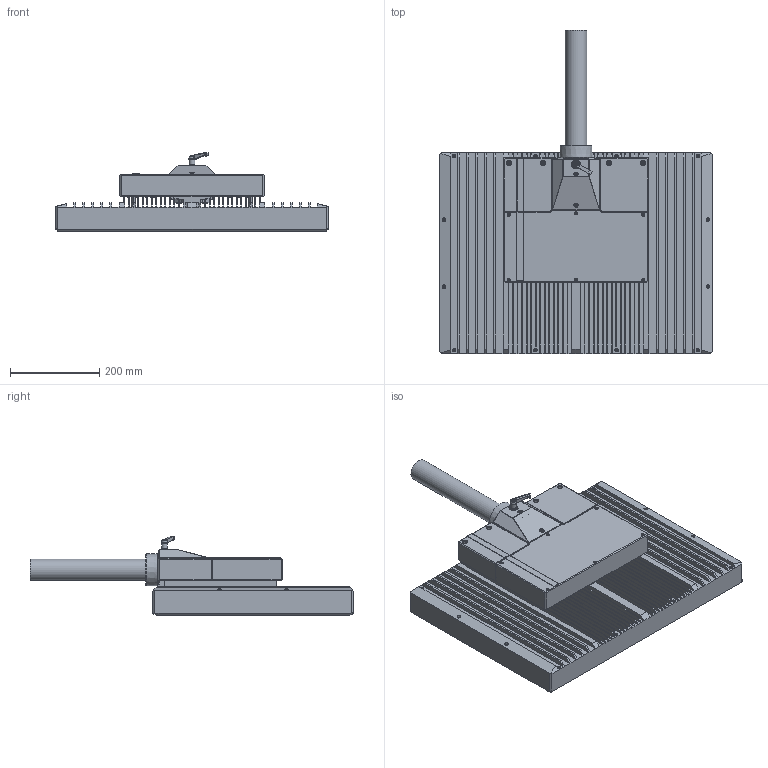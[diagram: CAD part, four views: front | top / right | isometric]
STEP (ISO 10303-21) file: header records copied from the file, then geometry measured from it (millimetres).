
FILE_DESCRIPTION((''),'2;1');
FILE_NAME('X:\0-inventor\0-3d-Teile\PC-Compo\solids\CP72\0-Ausgabe\CP7204-0000.stp','2011-02-11T08:29:00',('ChristianKreuzer'),(''),'Autodesk Inventor 2011','Autodesk Inventor 2011','');
FILE_SCHEMA(('AUTOMOTIVE_DESIGN { 1 0 10303 214 1 1 1 1 }'));
Length unit declared in the file: centimetre
Products named in the file (1): Bauteil1
Bounding box: 610 x 724.1 x 175.7 mm (x, y, z)
Volume: 18932996.2 mm3; surface area: 1688100.7 mm2
Topology: 1 solids, 70 shells, 3396 faces, 8837 edges, 5704 vertices
Faces by surface type: plane 2068, cylinder 774, cone 356, torus 147, bspline 35, sphere 16
Full cylindrical faces by diameter (mm): 1 x20, 1.5 x57, 2.013 x1, 2.256 x2, 2.459 x2, 2.5 x2, 2.8 x2, 3 x8, 3.242 x14, 3.3 x1, 3.571 x6, 3.621 x4, 4 x33, 4.2 x4, 4.3 x3, 4.4 x6, 4.5 x12, 4.6 x12, 5 x8, 6 x5, 6.2 x4, 6.5 x1, 6.6 x4, 7 x26, 7.5 x4, 7.6 x1, 8 x15, 8.4 x3, 8.5 x2, 9 x6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
Entity records: 106861 total; most frequent: CARTESIAN_POINT 23370, DIRECTION 16355, ORIENTED_EDGE 16138, EDGE_CURVE 8069, AXIS2_PLACEMENT_3D 5778, VERTEX_POINT 5483, VECTOR 4799, LINE 4799
